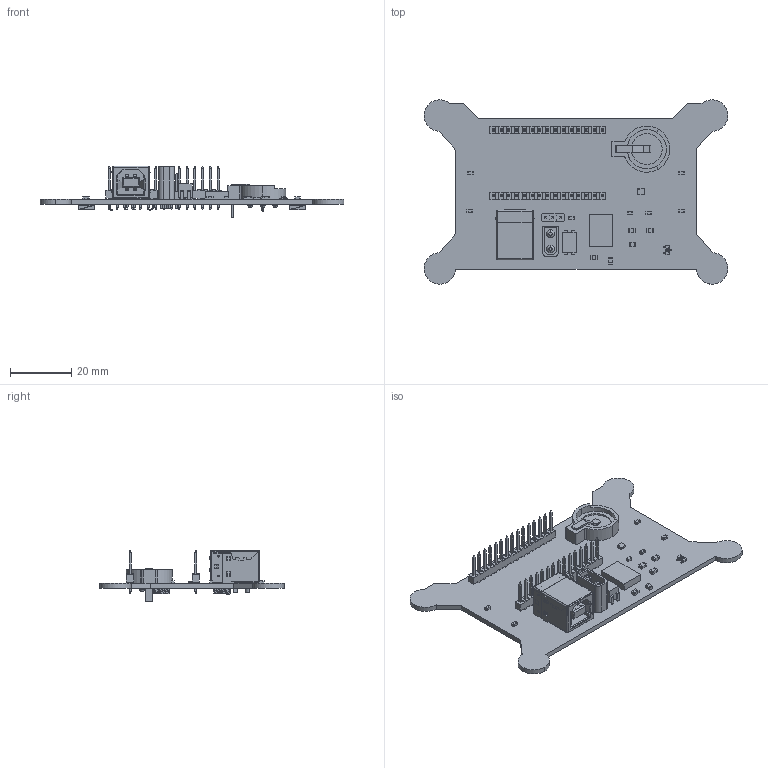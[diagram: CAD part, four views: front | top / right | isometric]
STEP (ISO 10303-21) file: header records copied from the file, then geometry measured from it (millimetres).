
FILE_DESCRIPTION(('Open CASCADE Model'),'2;1');
FILE_NAME('Open CASCADE Shape Model','2019-06-20T21:13:17',('Author'),( 'Open CASCADE'),'Open CASCADE STEP processor 6.5','Open CASCADE 6.5' ,'Unknown');
FILE_SCHEMA(('AUTOMOTIVE_DESIGN { 1 0 10303 214 1 1 1 1 }'));
Length unit declared in the file: millimetre
Products named in the file (66): PCB; Board; J1; XT30U-M(1); U2; User_Library-QFN6_(1); U1; 022032151; SOLID; COMPOUND; RTC; 1543876576; Extruded; R6; 1543874016; 1543873760; R5; R4; 1543877600; 1543877728; R3; 1543876448; 1543873504; R2; R1; Q1; User_Library-SOT95P240X110-3M[SOT23-3_TO-236AB]; L4; WS2812; L3; L2; L1; USB_B_jack; User_Library-Samtec_-_USB-B-S-X-W-TH_shell-USB_BF_TH____2; User_Library-Samtec_-_USB-B-S-X-W-TH_contact01-USB_BF_TH____2; User_Library-Samtec_-_USB-B-S-X-W-TH_contact02-USB_BF_TH____2; User_Library-Samtec_-_USB-B-S-X-W-TH_rear_shell-USB_BF_TH____2; User_Library-Samtec_-_USB-B-S-X-W-TH_housing-USB_BF_TH____2; Humidity; Download_STP_61300311121_(rev1)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
Assembly tree (112 placements, depth 4):
  PCB
    Board
    J1
      XT30U-M(1)
    U2
      User_Library-QFN6_(1)
    U1
      022032151  x2
        SOLID
        COMPOUND
    RTC
      1543876576
        Extruded
    R6
      1543874016
        Extruded
      1543873760  x2
        Extruded
    R5
      1543874016
        Extruded
      1543873760  x2
        Extruded
    R4
      1543877600
        Extruded
      1543877728  x2
        Extruded
    R3
      1543876448  x2
        Extruded
      1543873504
        Extruded
    R2
      1543874016
        Extruded
      1543873760  x2
        Extruded
    R1
      1543874016
        Extruded
      1543873760  x2
        Extruded
    Q1
      User_Library-SOT95P240X110-3M[SOT23-3_TO-236AB]
    L4
      WS2812
    L3
      WS2812
    L2
      WS2812
    L1
      WS2812
    J1
      USB_B_jack
        User_Library-Samtec_-_USB-B-S-X-W-TH_shell-USB_BF_TH____2
        User_Library-Samtec_-_USB-B-S-X-W-TH_contact01-USB_BF_TH____2  x2
        User_Library-Samtec_-_USB-B-S-X-W-TH_contact02-USB_BF_TH____2  x2
        User_Library-Samtec_-_USB-B-S-X-W-TH_rear_shell-USB_BF_TH____2
        User_Library-Samtec_-_USB-B-S-X-W-TH_housing-USB_BF_TH____2
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Bounding box: 99.25 x 60.25 x 16.99 mm (x, y, z)
Volume: 10262.1 mm3; surface area: 17410.7 mm2
Topology: 67 solids, 72 shells, 4569 faces, 9926 edges, 5641 vertices
Faces by surface type: plane 4026, cylinder 359, bspline 118, sphere 24, revolution 20, torus 14, cone 8
Entity records: 165546 total; most frequent: CARTESIAN_POINT 46795, DIRECTION 19398, LINE 13205, VECTOR 13205, ORIENTED_EDGE 11072, PCURVE 11072, DEFINITIONAL_REPRESENTATION 11072, EDGE_CURVE 5592
